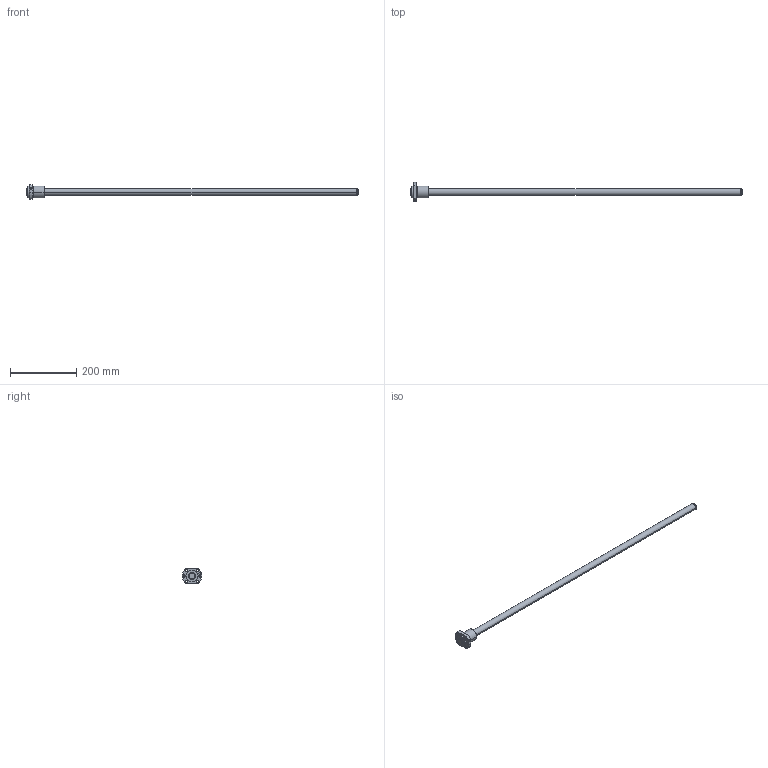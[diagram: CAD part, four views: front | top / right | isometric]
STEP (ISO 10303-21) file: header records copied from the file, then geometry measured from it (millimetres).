
FILE_DESCRIPTION( ( '' ), '1' );
FILE_NAME( 'C:/Users/v3-771-32344/Desktop/EBB STEP/EBB 2005-3 RRNone+1000L C7(940070)-ebb3.stp', '2015-08-27T13:36:27', ( '' ), ( '' ), ' ', ' ', ' ' );
FILE_SCHEMA( ( 'CONFIG_CONTROL_DESIGN' ) );
Length unit declared in the file: millimetre
Products named in the file (2): 1; 2
Bounding box: 1000 x 58 x 44 mm (x, y, z)
Volume: 358953.4 mm3; surface area: 78286.9 mm2
Topology: 2 solids, 2 shells, 67 faces, 155 edges, 99 vertices
Faces by surface type: cylinder 36, cone 18, plane 13
Entity records: 2167 total; most frequent: CARTESIAN_POINT 473, DIRECTION 366, ORIENTED_EDGE 310, AXIS2_PLACEMENT_3D 155, EDGE_CURVE 155, VERTEX_POINT 99, EDGE_LOOP 90, CIRCLE 86
